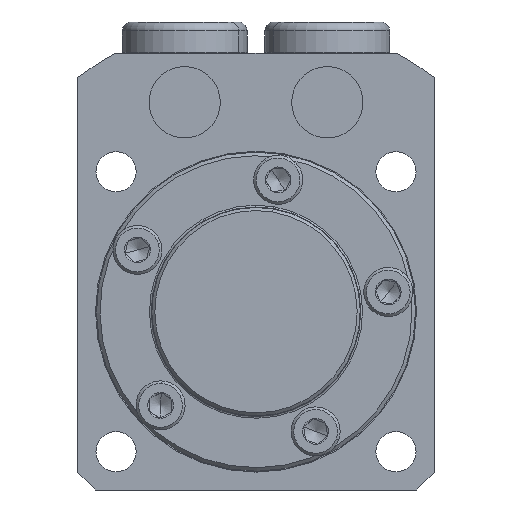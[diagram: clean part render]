
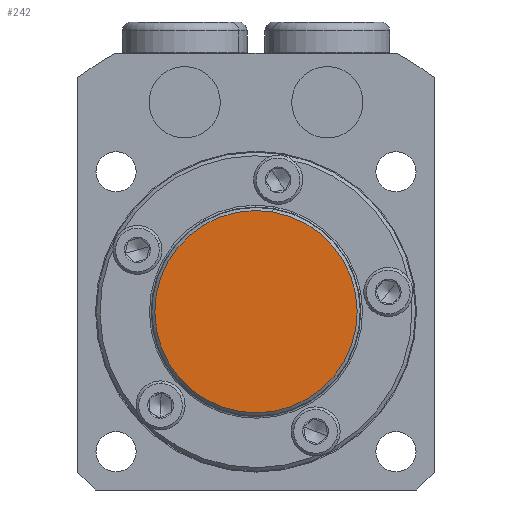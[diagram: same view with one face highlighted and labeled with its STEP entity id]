
A CAD part, front view. The second image highlights one B-rep face of the part: STEP entity #242.
In plain terms, the highlighted planar face has unit normal (0, -1, 0).
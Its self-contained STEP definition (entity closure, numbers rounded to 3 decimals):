
#242 = ADVANCED_FACE ( 'NONE', ( #7265 ), #7266, .T. ) ;
#257 = EDGE_CURVE ( 'NONE', #6816, #6819, #546, .T. ) ;
#309 = EDGE_CURVE ( 'NONE', #6819, #6816, #632, .T. ) ;
#528 = AXIS2_PLACEMENT_3D ( 'NONE', #7257, #7269, #7270 ) ;
#546 = CIRCLE ( 'NONE', #551, 11.35 ) ;
#551 = AXIS2_PLACEMENT_3D ( 'NONE', #7329, #7330, #7331 ) ;
#632 = CIRCLE ( 'NONE', #635, 11.35 ) ;
#635 = AXIS2_PLACEMENT_3D ( 'NONE', #4230, #4231, #4232 ) ;
#2894 = CARTESIAN_POINT ( 'NONE',  ( 0., -6., -11.35 ) ) ;
#2897 = CARTESIAN_POINT ( 'NONE',  ( 0., -6., 11.35 ) ) ;
#4230 = CARTESIAN_POINT ( 'NONE',  ( 0., -6., 0. ) ) ;
#4231 = DIRECTION ( 'NONE',  ( 0., -1., 0. ) ) ;
#4232 = DIRECTION ( 'NONE',  ( 0., 0., -1. ) ) ;
#5644 = EDGE_LOOP ( 'NONE', ( #6376, #6377 ) ) ;
#6376 = ORIENTED_EDGE ( 'NONE', *, *, #309, .T. ) ;
#6377 = ORIENTED_EDGE ( 'NONE', *, *, #257, .T. ) ;
#6816 = VERTEX_POINT ( 'NONE', #2894 ) ;
#6819 = VERTEX_POINT ( 'NONE', #2897 ) ;
#7257 = CARTESIAN_POINT ( 'NONE',  ( 0., -6., 0. ) ) ;
#7265 = FACE_OUTER_BOUND ( 'NONE', #5644, .T. ) ;
#7266 = PLANE ( 'NONE',  #528 ) ;
#7269 = DIRECTION ( 'NONE',  ( 0., -1., 0. ) ) ;
#7270 = DIRECTION ( 'NONE',  ( 0., 0., -1. ) ) ;
#7329 = CARTESIAN_POINT ( 'NONE',  ( 0., -6., 0. ) ) ;
#7330 = DIRECTION ( 'NONE',  ( 0., -1., 0. ) ) ;
#7331 = DIRECTION ( 'NONE',  ( 0., 0., -1. ) ) ;
